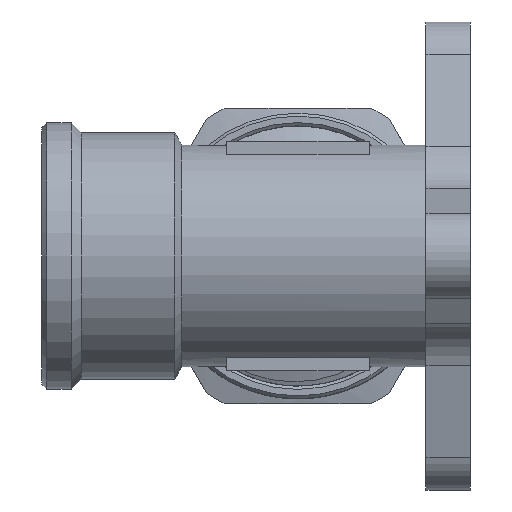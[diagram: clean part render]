
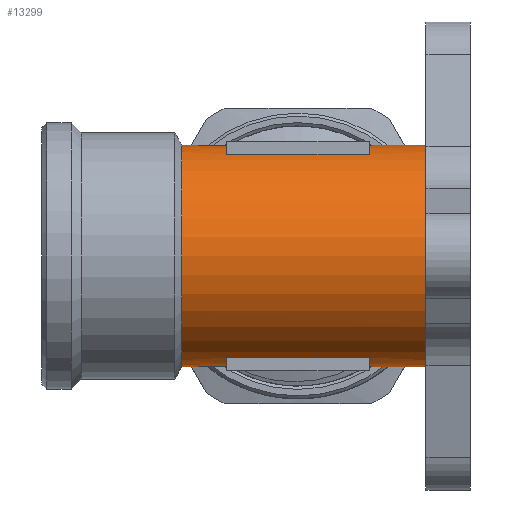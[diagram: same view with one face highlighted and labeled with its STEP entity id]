
A CAD part, left-side view. The second image highlights one B-rep face of the part: STEP entity #13299.
In plain terms, the highlighted cylindrical face has radius 11.25 mm (diameter 22.5 mm), a full revolution.
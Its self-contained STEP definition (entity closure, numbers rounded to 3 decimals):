
#693=CIRCLE('',#14078,11.25);
#694=CIRCLE('',#14079,11.25);
#708=CIRCLE('',#14100,11.25);
#717=CIRCLE('',#14112,11.25);
#718=CIRCLE('',#14113,11.25);
#719=CIRCLE('',#14114,11.25);
#720=CIRCLE('',#14115,11.25);
#721=CIRCLE('',#14116,11.25);
#722=CIRCLE('',#14117,11.25);
#1054=FACE_OUTER_BOUND('',#1889,.T.);
#1784=FACE_BOUND('',#1890,.T.);
#1785=FACE_BOUND('',#1891,.T.);
#1889=EDGE_LOOP('',(#9109,#9110,#9111,#9112,#9113,#9114,#9115,#9116,#9117,
#9118,#9119,#9120,#9121));
#1890=EDGE_LOOP('',(#9122,#9123,#9124,#9125));
#1891=EDGE_LOOP('',(#9126,#9127,#9128,#9129));
#2721=B_SPLINE_CURVE_WITH_KNOTS('',3,(#18752,#18753,#18754,#18755,#18756,
#18757,#18758,#18759,#18760,#18761,#18762,#18763,#18764,#18765,#18766,#18767,
#18768),.UNSPECIFIED.,.F.,.F.,(4,1,1,1,1,1,1,1,1,1,1,1,1,1,4),(1.454,
1.454,1.661,2.215,2.353,2.492,
2.699,2.769,2.907,3.046,3.322,
3.495,3.599,4.153,4.361),
 .UNSPECIFIED.);
#3470=LINE('',#17191,#4439);
#3518=LINE('',#18803,#4487);
#3519=LINE('',#18804,#4488);
#3520=LINE('',#18805,#4489);
#3521=LINE('',#18807,#4490);
#3522=LINE('',#18813,#4491);
#3523=LINE('',#18817,#4492);
#3524=LINE('',#18821,#4493);
#3525=LINE('',#18825,#4494);
#4439=VECTOR('',#14772,11.25);
#4487=VECTOR('',#14954,11.25);
#4488=VECTOR('',#14955,10.);
#4489=VECTOR('',#14956,10.);
#4490=VECTOR('',#14957,11.25);
#4491=VECTOR('',#14962,10.);
#4492=VECTOR('',#14965,10.);
#4493=VECTOR('',#14968,10.);
#4494=VECTOR('',#14971,10.);
#5408=VERTEX_POINT('',#17189);
#5409=VERTEX_POINT('',#17190);
#5472=VERTEX_POINT('',#18523);
#5473=VERTEX_POINT('',#18524);
#5474=VERTEX_POINT('',#18526);
#5493=VERTEX_POINT('',#18578);
#5494=VERTEX_POINT('',#18579);
#5509=VERTEX_POINT('',#18806);
#5510=VERTEX_POINT('',#18808);
#5511=VERTEX_POINT('',#18811);
#5512=VERTEX_POINT('',#18812);
#5513=VERTEX_POINT('',#18814);
#5514=VERTEX_POINT('',#18816);
#5515=VERTEX_POINT('',#18819);
#5516=VERTEX_POINT('',#18820);
#5517=VERTEX_POINT('',#18822);
#5518=VERTEX_POINT('',#18824);
#6828=EDGE_CURVE('',#5408,#5409,#3470,.T.);
#6910=EDGE_CURVE('',#5472,#5473,#693,.T.);
#6911=EDGE_CURVE('',#5473,#5474,#694,.T.);
#6937=EDGE_CURVE('',#5493,#5494,#708,.T.);
#6954=EDGE_CURVE('',#5408,#5409,#2721,.T.);
#6957=EDGE_CURVE('',#5473,#5409,#3518,.T.);
#6958=EDGE_CURVE('',#5493,#5472,#3519,.T.);
#6959=EDGE_CURVE('',#5494,#5474,#3520,.T.);
#6960=EDGE_CURVE('',#5408,#5509,#3521,.T.);
#6961=EDGE_CURVE('',#5509,#5510,#717,.T.);
#6962=EDGE_CURVE('',#5510,#5509,#718,.T.);
#6963=EDGE_CURVE('',#5511,#5512,#3522,.T.);
#6964=EDGE_CURVE('',#5512,#5513,#719,.T.);
#6965=EDGE_CURVE('',#5513,#5514,#3523,.T.);
#6966=EDGE_CURVE('',#5514,#5511,#720,.T.);
#6967=EDGE_CURVE('',#5515,#5516,#3524,.T.);
#6968=EDGE_CURVE('',#5516,#5517,#721,.T.);
#6969=EDGE_CURVE('',#5517,#5518,#3525,.T.);
#6970=EDGE_CURVE('',#5518,#5515,#722,.T.);
#9109=ORIENTED_EDGE('',*,*,#6828,.T.);
#9110=ORIENTED_EDGE('',*,*,#6957,.F.);
#9111=ORIENTED_EDGE('',*,*,#6910,.F.);
#9112=ORIENTED_EDGE('',*,*,#6958,.F.);
#9113=ORIENTED_EDGE('',*,*,#6937,.T.);
#9114=ORIENTED_EDGE('',*,*,#6959,.T.);
#9115=ORIENTED_EDGE('',*,*,#6911,.F.);
#9116=ORIENTED_EDGE('',*,*,#6957,.T.);
#9117=ORIENTED_EDGE('',*,*,#6954,.F.);
#9118=ORIENTED_EDGE('',*,*,#6960,.T.);
#9119=ORIENTED_EDGE('',*,*,#6961,.T.);
#9120=ORIENTED_EDGE('',*,*,#6962,.T.);
#9121=ORIENTED_EDGE('',*,*,#6960,.F.);
#9122=ORIENTED_EDGE('',*,*,#6963,.T.);
#9123=ORIENTED_EDGE('',*,*,#6964,.T.);
#9124=ORIENTED_EDGE('',*,*,#6965,.T.);
#9125=ORIENTED_EDGE('',*,*,#6966,.T.);
#9126=ORIENTED_EDGE('',*,*,#6967,.T.);
#9127=ORIENTED_EDGE('',*,*,#6968,.T.);
#9128=ORIENTED_EDGE('',*,*,#6969,.T.);
#9129=ORIENTED_EDGE('',*,*,#6970,.T.);
#13188=CYLINDRICAL_SURFACE('',#14111,11.25);
#13299=ADVANCED_FACE('',(#1054,#1784,#1785),#13188,.T.);
#14078=AXIS2_PLACEMENT_3D('',#18525,#14866,#14867);
#14079=AXIS2_PLACEMENT_3D('',#18527,#14868,#14869);
#14100=AXIS2_PLACEMENT_3D('',#18580,#14922,#14923);
#14111=AXIS2_PLACEMENT_3D('',#18802,#14952,#14953);
#14112=AXIS2_PLACEMENT_3D('',#18809,#14958,#14959);
#14113=AXIS2_PLACEMENT_3D('',#18810,#14960,#14961);
#14114=AXIS2_PLACEMENT_3D('',#18815,#14963,#14964);
#14115=AXIS2_PLACEMENT_3D('',#18818,#14966,#14967);
#14116=AXIS2_PLACEMENT_3D('',#18823,#14969,#14970);
#14117=AXIS2_PLACEMENT_3D('',#18826,#14972,#14973);
#14772=DIRECTION('',(0.,-1.,0.));
#14866=DIRECTION('center_axis',(0.,-1.,0.));
#14867=DIRECTION('ref_axis',(1.,0.,0.));
#14868=DIRECTION('center_axis',(0.,-1.,0.));
#14869=DIRECTION('ref_axis',(1.,0.,0.));
#14922=DIRECTION('center_axis',(0.,1.,0.));
#14923=DIRECTION('ref_axis',(-1.,0.,0.));
#14952=DIRECTION('center_axis',(0.,-1.,0.));
#14953=DIRECTION('ref_axis',(-1.,0.,0.));
#14954=DIRECTION('',(0.,1.,0.));
#14955=DIRECTION('',(0.,-1.,0.));
#14956=DIRECTION('',(0.,-1.,0.));
#14957=DIRECTION('',(0.,1.,0.));
#14958=DIRECTION('center_axis',(0.,-1.,0.));
#14959=DIRECTION('ref_axis',(1.,0.,0.));
#14960=DIRECTION('center_axis',(0.,-1.,0.));
#14961=DIRECTION('ref_axis',(1.,0.,0.));
#14962=DIRECTION('',(0.,-1.,0.));
#14963=DIRECTION('center_axis',(0.,-1.,0.));
#14964=DIRECTION('ref_axis',(-1.,0.,0.));
#14965=DIRECTION('',(0.,1.,0.));
#14966=DIRECTION('center_axis',(0.,1.,0.));
#14967=DIRECTION('ref_axis',(-1.,0.,0.));
#14968=DIRECTION('',(0.,1.,0.));
#14969=DIRECTION('center_axis',(0.,1.,0.));
#14970=DIRECTION('ref_axis',(-1.,0.,0.));
#14971=DIRECTION('',(0.,-1.,0.));
#14972=DIRECTION('center_axis',(0.,-1.,0.));
#14973=DIRECTION('ref_axis',(-1.,0.,0.));
#17189=CARTESIAN_POINT('',(11.25,10.,0.));
#17190=CARTESIAN_POINT('',(11.25,-10.,0.));
#17191=CARTESIAN_POINT('',(11.25,-2.861,0.));
#18523=CARTESIAN_POINT('',(10.536,-17.5,-3.945));
#18524=CARTESIAN_POINT('',(11.25,-17.5,0.));
#18525=CARTESIAN_POINT('Origin',(0.,-17.5,
0.));
#18526=CARTESIAN_POINT('',(10.536,-17.5,3.945));
#18527=CARTESIAN_POINT('Origin',(0.,-17.5,
0.));
#18578=CARTESIAN_POINT('',(10.536,-13.,-3.945));
#18579=CARTESIAN_POINT('',(10.536,-13.,3.945));
#18580=CARTESIAN_POINT('Origin',(0.,-13.,0.));
#18752=CARTESIAN_POINT('Ctrl Pts',(11.25,10.001,-0.001));
#18753=CARTESIAN_POINT('Ctrl Pts',(11.25,10.001,-0.001));
#18754=CARTESIAN_POINT('Ctrl Pts',(11.25,10.001,0.731));
#18755=CARTESIAN_POINT('Ctrl Pts',(10.983,9.638,3.424));
#18756=CARTESIAN_POINT('Ctrl Pts',(9.658,7.864,6.014));
#18757=CARTESIAN_POINT('Ctrl Pts',(8.305,5.658,7.607));
#18758=CARTESIAN_POINT('Ctrl Pts',(7.534,4.221,8.381));
#18759=CARTESIAN_POINT('Ctrl Pts',(6.957,2.838,8.846));
#18760=CARTESIAN_POINT('Ctrl Pts',(6.583,1.325,9.124));
#18761=CARTESIAN_POINT('Ctrl Pts',(6.44,0.001,
9.224));
#18762=CARTESIAN_POINT('Ctrl Pts',(6.671,-2.125,9.063));
#18763=CARTESIAN_POINT('Ctrl Pts',(7.474,-4.137,8.454));
#18764=CARTESIAN_POINT('Ctrl Pts',(8.362,-5.755,7.547));
#18765=CARTESIAN_POINT('Ctrl Pts',(9.708,-7.93,5.916));
#18766=CARTESIAN_POINT('Ctrl Pts',(10.985,-9.643,3.422));
#18767=CARTESIAN_POINT('Ctrl Pts',(11.249,-9.998,0.732));
#18768=CARTESIAN_POINT('Ctrl Pts',(11.25,-10.,-0.001));
#18802=CARTESIAN_POINT('Origin',(0.,-2.861,
0.));
#18803=CARTESIAN_POINT('',(11.25,-2.861,0.));
#18804=CARTESIAN_POINT('',(10.536,-2.861,-3.945));
#18805=CARTESIAN_POINT('',(10.536,-2.861,3.945));
#18806=CARTESIAN_POINT('',(11.25,11.778,0.));
#18807=CARTESIAN_POINT('',(11.25,-2.861,0.));
#18808=CARTESIAN_POINT('',(-11.25,11.778,0.));
#18809=CARTESIAN_POINT('Origin',(0.,11.778,
0.));
#18810=CARTESIAN_POINT('Origin',(0.,11.778,
0.));
#18811=CARTESIAN_POINT('',(4.5,7.25,10.311));
#18812=CARTESIAN_POINT('',(4.5,-7.25,10.311));
#18813=CARTESIAN_POINT('',(4.5,-2.861,10.311));
#18814=CARTESIAN_POINT('',(-4.5,-7.25,10.311));
#18815=CARTESIAN_POINT('Origin',(0.,-7.25,
0.));
#18816=CARTESIAN_POINT('',(-4.5,7.25,10.311));
#18817=CARTESIAN_POINT('',(-4.5,-2.861,10.311));
#18818=CARTESIAN_POINT('Origin',(0.,7.25,
0.));
#18819=CARTESIAN_POINT('',(4.5,-7.25,-10.311));
#18820=CARTESIAN_POINT('',(4.5,7.25,-10.311));
#18821=CARTESIAN_POINT('',(4.5,-2.861,-10.311));
#18822=CARTESIAN_POINT('',(-4.5,7.25,-10.311));
#18823=CARTESIAN_POINT('Origin',(0.,7.25,
0.));
#18824=CARTESIAN_POINT('',(-4.5,-7.25,-10.311));
#18825=CARTESIAN_POINT('',(-4.5,-2.861,-10.311));
#18826=CARTESIAN_POINT('Origin',(0.,-7.25,
0.));
